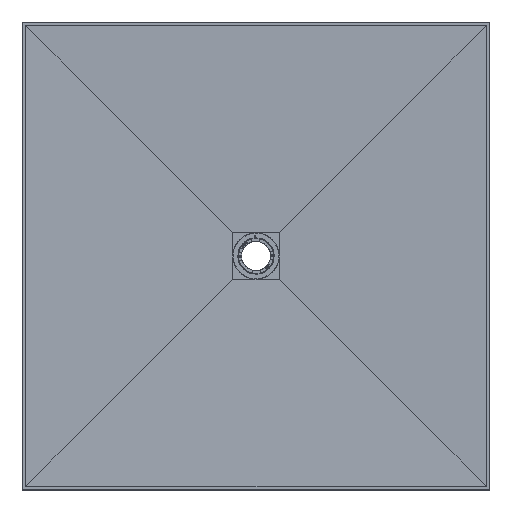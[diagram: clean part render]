
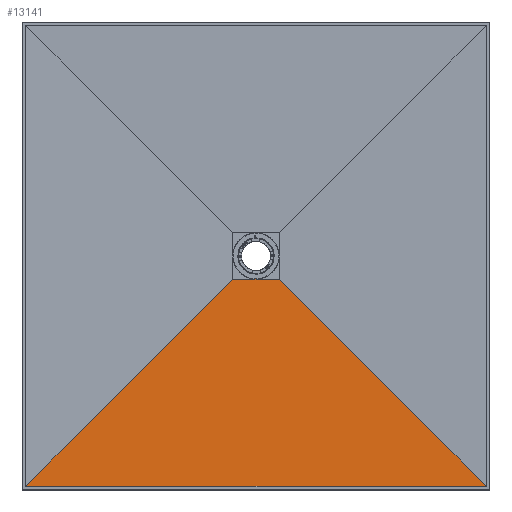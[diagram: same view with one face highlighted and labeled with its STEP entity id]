
A CAD part, top view. The second image highlights one B-rep face of the part: STEP entity #13141.
In plain terms, the highlighted planar face has unit normal (0, 0.026, 1).
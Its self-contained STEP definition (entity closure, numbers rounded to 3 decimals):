
#2349=FACE_OUTER_BOUND('',#3094,.T.);
#3094=EDGE_LOOP('',(#8812,#8813,#8814,#8815));
#3903=LINE('',#18664,#4524);
#3907=LINE('',#18673,#4528);
#3911=LINE('',#18679,#4532);
#3912=LINE('',#18681,#4533);
#4524=VECTOR('',#15363,10.);
#4528=VECTOR('',#15369,10.);
#4532=VECTOR('',#15377,10.);
#4533=VECTOR('',#15380,10.);
#5140=VERTEX_POINT('',#18661);
#5141=VERTEX_POINT('',#18663);
#5144=VERTEX_POINT('',#18670);
#5145=VERTEX_POINT('',#18672);
#6606=EDGE_CURVE('',#5140,#5141,#3903,.F.);
#6610=EDGE_CURVE('',#5145,#5144,#3907,.F.);
#6614=EDGE_CURVE('',#5140,#5145,#3911,.T.);
#6615=EDGE_CURVE('',#5141,#5144,#3912,.T.);
#8812=ORIENTED_EDGE('',*,*,#6606,.F.);
#8813=ORIENTED_EDGE('',*,*,#6614,.T.);
#8814=ORIENTED_EDGE('',*,*,#6610,.T.);
#8815=ORIENTED_EDGE('',*,*,#6615,.F.);
#13071=PLANE('',#13979);
#13141=ADVANCED_FACE('',(#2349),#13071,.F.);
#13979=AXIS2_PLACEMENT_3D('',#18680,#15378,#15379);
#15363=DIRECTION('',(1.,0.,0.));
#15369=DIRECTION('',(1.,0.,0.));
#15377=DIRECTION('',(-0.707,0.707,-0.018));
#15378=DIRECTION('center_axis',(0.,-0.026,-1.));
#15379=DIRECTION('ref_axis',(-1.,0.,0.));
#15380=DIRECTION('',(0.707,0.707,-0.018));
#18661=CARTESIAN_POINT('',(746.284,-1355.784,20.));
#18663=CARTESIAN_POINT('',(-752.284,-1355.784,20.));
#18664=CARTESIAN_POINT('',(373.15,-1355.784,20.));
#18670=CARTESIAN_POINT('',(-79.484,-682.984,2.5));
#18672=CARTESIAN_POINT('',(73.484,-682.984,2.5));
#18673=CARTESIAN_POINT('',(371.65,-682.984,2.5));
#18679=CARTESIAN_POINT('',(371.76,-981.26,10.258));
#18680=CARTESIAN_POINT('Origin',(746.3,-1355.767,20.));
#18681=CARTESIAN_POINT('',(-377.76,-981.26,10.258));
